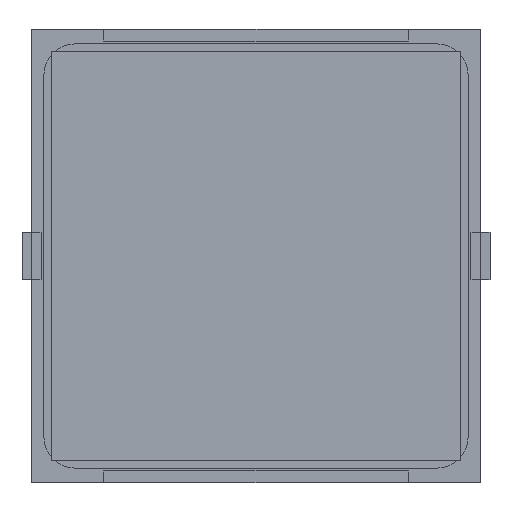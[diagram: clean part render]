
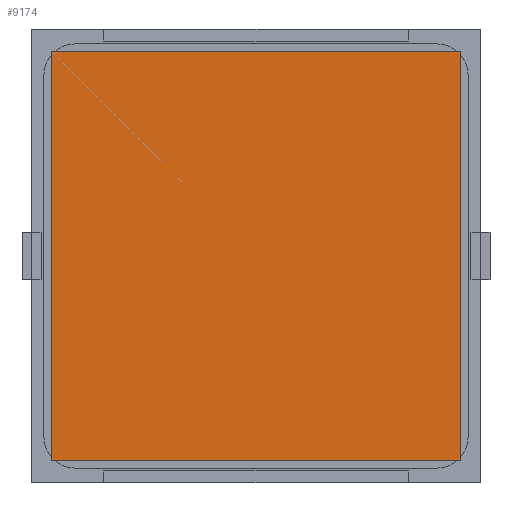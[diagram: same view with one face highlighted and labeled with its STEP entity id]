
A CAD part, front view. The second image highlights one B-rep face of the part: STEP entity #9174.
In plain terms, the highlighted planar face has unit normal (0, -1, 0).
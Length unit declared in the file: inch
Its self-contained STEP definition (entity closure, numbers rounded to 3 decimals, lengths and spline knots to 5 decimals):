
#774 = LINE ( 'NONE', #7905, #5156 ) ;
#981 = DIRECTION ( 'NONE',  ( 0., 0., 1. ) ) ;
#1012 = CARTESIAN_POINT ( 'NONE',  ( -0.84646, -0.005, 0.84646 ) ) ;
#1736 = VERTEX_POINT ( 'NONE', #4374 ) ;
#1841 = VERTEX_POINT ( 'NONE', #10163 ) ;
#2056 = LINE ( 'NONE', #6012, #7960 ) ;
#2060 = CARTESIAN_POINT ( 'NONE',  ( -0.84646, -0.005, -0.84646 ) ) ;
#2441 = VECTOR ( 'NONE', #6144, 39.37008 ) ;
#3217 = CARTESIAN_POINT ( 'NONE',  ( 0.84646, -0.005, 0.84646 ) ) ;
#4374 = CARTESIAN_POINT ( 'NONE',  ( -0.84646, -0.005, -0.84646 ) ) ;
#4477 = VECTOR ( 'NONE', #6221, 39.37008 ) ;
#5156 = VECTOR ( 'NONE', #6900, 39.37008 ) ;
#5196 = FACE_OUTER_BOUND ( 'NONE', #13122, .T. ) ;
#5371 = ORIENTED_EDGE ( 'NONE', *, *, #7981, .F. ) ;
#5793 = EDGE_CURVE ( 'NONE', #1841, #1736, #7206, .T. ) ;
#6012 = CARTESIAN_POINT ( 'NONE',  ( 0.84646, -0.005, -0.84646 ) ) ;
#6018 = EDGE_CURVE ( 'NONE', #10365, #8778, #774, .T. ) ;
#6067 = CARTESIAN_POINT ( 'NONE',  ( -0.84646, -0.005, 0.84646 ) ) ;
#6144 = DIRECTION ( 'NONE',  ( 0., 0., 1. ) ) ;
#6221 = DIRECTION ( 'NONE',  ( -1., 0., 0. ) ) ;
#6900 = DIRECTION ( 'NONE',  ( 1., 0., 0. ) ) ;
#6982 = PLANE ( 'NONE',  #8914 ) ;
#7206 = LINE ( 'NONE', #11271, #4477 ) ;
#7905 = CARTESIAN_POINT ( 'NONE',  ( -0.84646, -0.005, 0.84646 ) ) ;
#7960 = VECTOR ( 'NONE', #10041, 39.37008 ) ;
#7981 = EDGE_CURVE ( 'NONE', #1736, #10365, #11184, .T. ) ;
#8778 = VERTEX_POINT ( 'NONE', #3217 ) ;
#8914 = AXIS2_PLACEMENT_3D ( 'NONE', #6067, #10101, #981 ) ;
#9111 = ORIENTED_EDGE ( 'NONE', *, *, #12221, .F. ) ;
#9174 = ADVANCED_FACE ( 'NONE', ( #5196 ), #6982, .F. ) ;
#10041 = DIRECTION ( 'NONE',  ( 0., 0., -1. ) ) ;
#10101 = DIRECTION ( 'NONE',  ( 0., 1., 0. ) ) ;
#10132 = ORIENTED_EDGE ( 'NONE', *, *, #5793, .F. ) ;
#10163 = CARTESIAN_POINT ( 'NONE',  ( 0.84646, -0.005, -0.84646 ) ) ;
#10365 = VERTEX_POINT ( 'NONE', #1012 ) ;
#11184 = LINE ( 'NONE', #2060, #2441 ) ;
#11271 = CARTESIAN_POINT ( 'NONE',  ( -0.84646, -0.005, -0.84646 ) ) ;
#12221 = EDGE_CURVE ( 'NONE', #8778, #1841, #2056, .T. ) ;
#12289 = ORIENTED_EDGE ( 'NONE', *, *, #6018, .F. ) ;
#13122 = EDGE_LOOP ( 'NONE', ( #5371, #10132, #9111, #12289 ) ) ;
